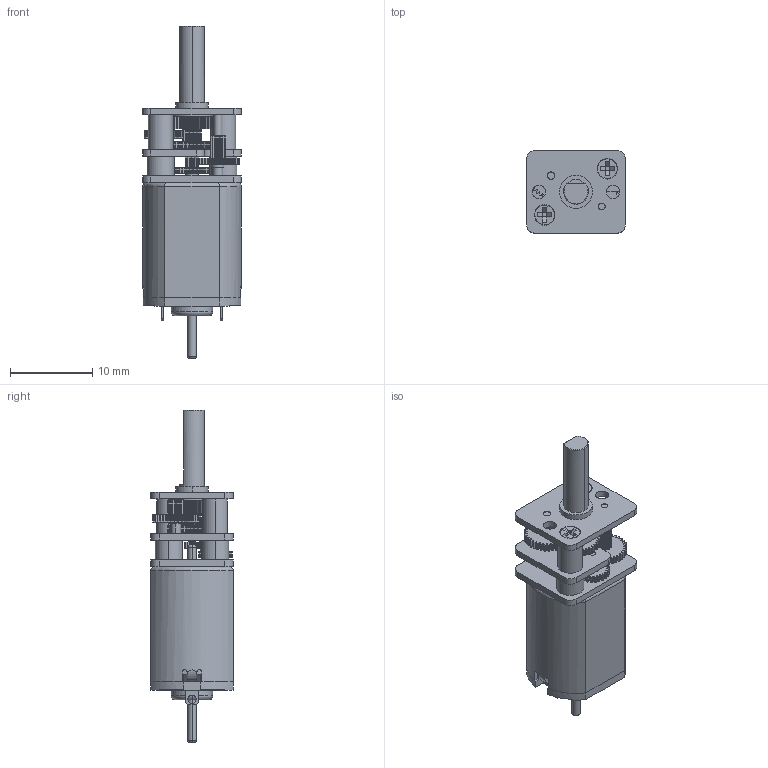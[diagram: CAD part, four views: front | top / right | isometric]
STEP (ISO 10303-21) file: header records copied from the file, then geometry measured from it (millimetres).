
FILE_DESCRIPTION (( 'STEP AP214' ), '1' );
FILE_NAME ('mmgm-backshaft-step3.STEP', '2024-04-23T22:41:31', ( '' ), ( '' ), 'SwSTEP 2.0', 'SolidWorks 2023', '' );
FILE_SCHEMA (( 'AUTOMOTIVE_DESIGN' ));
Length unit declared in the file: inch
Products named in the file (1): mmgm-backshaft-step3
Bounding box: 12 x 10 x 40.3 mm (x, y, z)
Volume: 2122.4 mm3; surface area: 2203.1 mm2
Topology: 1 solids, 1 shells, 2280 faces, 6866 edges, 4649 vertices
Faces by surface type: cylinder 1224, plane 736, bspline 301, torus 13, cone 6
Entity records: 123579 total; most frequent: CARTESIAN_POINT 40728, ORIENTED_EDGE 13732, DIRECTION 7335, EDGE_CURVE 6866, VERTEX_POINT 4649, B_SPLINE_CURVE_WITH_KNOTS 4408, AXIS2_PLACEMENT_3D 2909, EDGE_LOOP 2383
